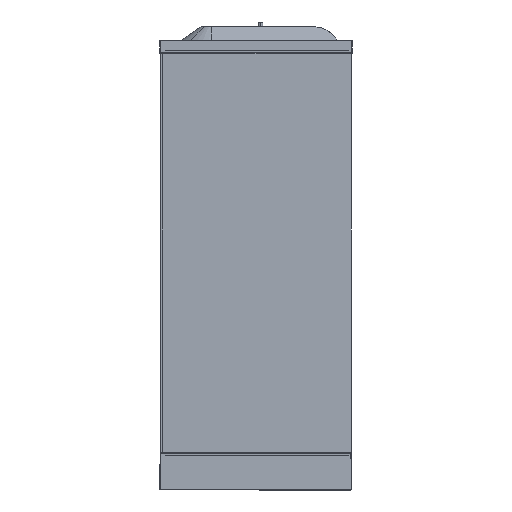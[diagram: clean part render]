
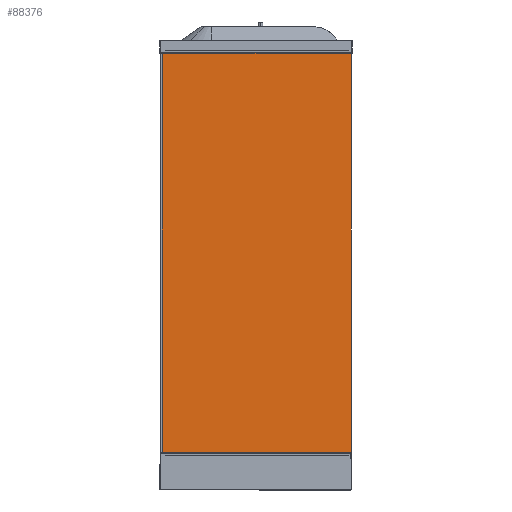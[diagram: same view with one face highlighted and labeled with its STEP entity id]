
A CAD part, left-side view. The second image highlights one B-rep face of the part: STEP entity #88376.
In plain terms, the highlighted free-form (B-spline) face has degree [1, 1] with [2, 2] control points.
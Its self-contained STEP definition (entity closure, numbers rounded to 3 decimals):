
#42078=CARTESIAN_POINT('',(3.567,-885.978,2050.06));
#42079=VERTEX_POINT('',#42078);
#42086=CARTESIAN_POINT('',(3.567,-899.978,2050.06));
#42087=VERTEX_POINT('',#42086);
#42088=CARTESIAN_POINT('',(3.567,-885.978,2050.06));
#42089=DIRECTION('',(0.,-1.,0.0));
#42090=VECTOR('',#42089,14.);
#42091=LINE('',#42088,#42090);
#42092=EDGE_CURVE('',#42079,#42087,#42091,.T.);
#42181=CARTESIAN_POINT('',(3.563,-25.974,2050.06));
#42182=VERTEX_POINT('',#42181);
#42189=CARTESIAN_POINT('',(3.563,-25.974,2063.06));
#42190=VERTEX_POINT('',#42189);
#42191=CARTESIAN_POINT('',(3.563,-25.974,2050.06));
#42192=DIRECTION('',(0.0,0.0,1.0));
#42193=VECTOR('',#42192,13.0);
#42194=LINE('',#42191,#42193);
#42195=EDGE_CURVE('',#42182,#42190,#42194,.T.);
#42211=CARTESIAN_POINT('',(3.567,-885.978,2063.06));
#42212=VERTEX_POINT('',#42211);
#42219=CARTESIAN_POINT('',(3.567,-885.978,2063.06));
#42220=DIRECTION('',(0.0,0.0,-1.0));
#42221=VECTOR('',#42220,13.0);
#42222=LINE('',#42219,#42221);
#42223=EDGE_CURVE('',#42212,#42079,#42222,.T.);
#42237=CARTESIAN_POINT('',(3.563,-11.974,2050.06));
#42238=VERTEX_POINT('',#42237);
#42245=CARTESIAN_POINT('',(3.563,-11.974,2050.06));
#42246=DIRECTION('',(0.,-1.,0.0));
#42247=VECTOR('',#42246,14.);
#42248=LINE('',#42245,#42247);
#42249=EDGE_CURVE('',#42238,#42182,#42248,.T.);
#88127=CARTESIAN_POINT('',(3.567,-885.978,2063.06));
#88128=DIRECTION('',(0.,1.,0.0));
#88129=VECTOR('',#88128,860.004);
#88130=LINE('',#88127,#88129);
#88131=EDGE_CURVE('',#42212,#42190,#88130,.T.);
#88192=CARTESIAN_POINT('',(3.563,-25.974,163.06));
#88193=VERTEX_POINT('',#88192);
#88194=CARTESIAN_POINT('',(3.567,-885.977,163.06));
#88195=VERTEX_POINT('',#88194);
#88196=CARTESIAN_POINT('',(3.563,-25.974,163.06));
#88197=DIRECTION('',(0.,-1.,0.0));
#88198=VECTOR('',#88197,860.004);
#88199=LINE('',#88196,#88198);
#88200=EDGE_CURVE('',#88193,#88195,#88199,.T.);
#88233=CARTESIAN_POINT('',(3.563,-11.977,176.06));
#88234=VERTEX_POINT('',#88233);
#88241=CARTESIAN_POINT('',(3.563,-11.977,2050.06));
#88242=DIRECTION('',(0.0,0.0,-1.0));
#88243=VECTOR('',#88242,1874.);
#88244=LINE('',#88241,#88243);
#88245=EDGE_CURVE('',#42238,#88234,#88244,.T.);
#88257=CARTESIAN_POINT('',(3.563,-25.974,176.06));
#88258=VERTEX_POINT('',#88257);
#88259=CARTESIAN_POINT('',(3.563,-25.974,163.06));
#88260=DIRECTION('',(0.0,0.0,1.0));
#88261=VECTOR('',#88260,13.0);
#88262=LINE('',#88259,#88261);
#88263=EDGE_CURVE('',#88193,#88258,#88262,.T.);
#88282=CARTESIAN_POINT('',(3.563,-25.974,176.06));
#88283=DIRECTION('',(0.,1.,0.0));
#88284=VECTOR('',#88283,14.);
#88285=LINE('',#88282,#88284);
#88286=EDGE_CURVE('',#88258,#88234,#88285,.T.);
#88297=CARTESIAN_POINT('',(3.567,-899.977,176.06));
#88298=VERTEX_POINT('',#88297);
#88307=CARTESIAN_POINT('',(3.567,-899.977,176.06));
#88308=DIRECTION('',(0.0,0.0,1.0));
#88309=VECTOR('',#88308,1874.);
#88310=LINE('',#88307,#88309);
#88311=EDGE_CURVE('',#88298,#42087,#88310,.T.);
#88323=CARTESIAN_POINT('',(3.567,-885.977,176.06));
#88324=VERTEX_POINT('',#88323);
#88331=CARTESIAN_POINT('',(3.567,-885.977,163.06));
#88332=DIRECTION('',(0.0,0.0,1.0));
#88333=VECTOR('',#88332,13.);
#88334=LINE('',#88331,#88333);
#88335=EDGE_CURVE('',#88195,#88324,#88334,.T.);
#88347=CARTESIAN_POINT('',(3.567,-885.977,176.06));
#88348=DIRECTION('',(0.,-1.,0.));
#88349=VECTOR('',#88348,14.);
#88350=LINE('',#88347,#88349);
#88351=EDGE_CURVE('',#88324,#88298,#88350,.T.);
#88357=CARTESIAN_POINT('',(3.563,-11.565,2063.472));
#88358=CARTESIAN_POINT('',(3.563,-11.565,162.647));
#88359=CARTESIAN_POINT('',(3.567,-900.39,2063.472));
#88360=CARTESIAN_POINT('',(3.567,-900.39,162.647));
#88361=B_SPLINE_SURFACE_WITH_KNOTS('',1,1,((#88357,#88359),(#88358,#88360)),.UNSPECIFIED.,.F.,.F.,.U.,(2,2),(2,2),(3.663,1904.488),(13.058,901.884),.UNSPECIFIED.);
#88362=ORIENTED_EDGE('',*,*,#88200,.T.);
#88363=ORIENTED_EDGE('',*,*,#88335,.T.);
#88364=ORIENTED_EDGE('',*,*,#88351,.T.);
#88365=ORIENTED_EDGE('',*,*,#88311,.T.);
#88366=ORIENTED_EDGE('',*,*,#42092,.F.);
#88367=ORIENTED_EDGE('',*,*,#42223,.F.);
#88368=ORIENTED_EDGE('',*,*,#88131,.T.);
#88369=ORIENTED_EDGE('',*,*,#42195,.F.);
#88370=ORIENTED_EDGE('',*,*,#42249,.F.);
#88371=ORIENTED_EDGE('',*,*,#88245,.T.);
#88372=ORIENTED_EDGE('',*,*,#88286,.F.);
#88373=ORIENTED_EDGE('',*,*,#88263,.F.);
#88374=EDGE_LOOP('',(#88362,#88363,#88364,#88365,#88366,#88367,#88368,#88369,#88370,#88371,#88372,#88373));
#88375=FACE_OUTER_BOUND('',#88374,.T.);
#88376=ADVANCED_FACE('',(#88375),#88361,.T.);
